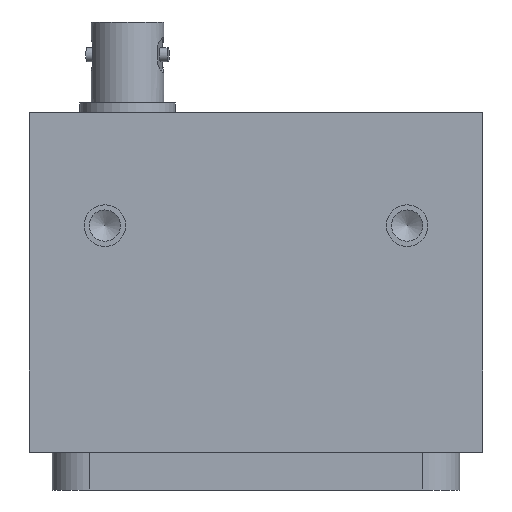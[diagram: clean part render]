
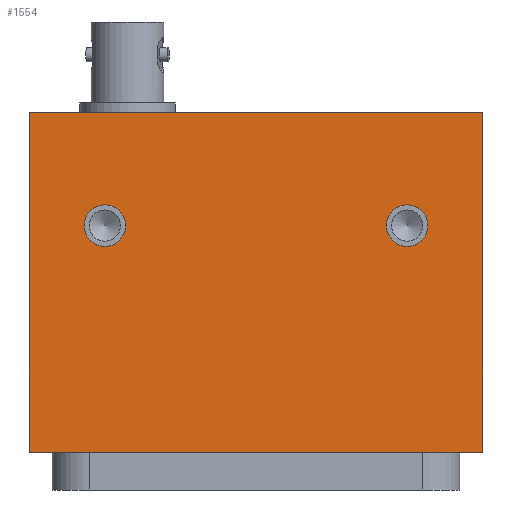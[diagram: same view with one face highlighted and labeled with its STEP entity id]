
A CAD part, front view. The second image highlights one B-rep face of the part: STEP entity #1554.
In plain terms, the highlighted planar face has unit normal (0, -1, 0).
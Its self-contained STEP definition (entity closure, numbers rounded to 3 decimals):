
#122=FACE_BOUND('',#407,.T.);
#123=FACE_BOUND('',#408,.T.);
#178=CIRCLE('',#1672,2.75);
#179=CIRCLE('',#1674,2.75);
#295=FACE_OUTER_BOUND('',#406,.T.);
#406=EDGE_LOOP('',(#1158,#1159,#1160,#1161));
#407=EDGE_LOOP('',(#1162));
#408=EDGE_LOOP('',(#1163));
#561=LINE('',#2400,#657);
#568=LINE('',#2420,#664);
#569=LINE('',#2422,#665);
#570=LINE('',#2423,#666);
#657=VECTOR('',#1919,45.);
#664=VECTOR('',#1940,60.);
#665=VECTOR('',#1941,45.);
#666=VECTOR('',#1942,60.);
#755=VERTEX_POINT('',#2397);
#756=VERTEX_POINT('',#2399);
#758=VERTEX_POINT('',#2405);
#759=VERTEX_POINT('',#2408);
#762=VERTEX_POINT('',#2419);
#763=VERTEX_POINT('',#2421);
#917=EDGE_CURVE('',#756,#755,#561,.T.);
#920=EDGE_CURVE('',#758,#758,#178,.T.);
#921=EDGE_CURVE('',#759,#759,#179,.T.);
#926=EDGE_CURVE('',#755,#762,#568,.T.);
#927=EDGE_CURVE('',#763,#762,#569,.T.);
#928=EDGE_CURVE('',#763,#756,#570,.T.);
#1158=ORIENTED_EDGE('',*,*,#926,.T.);
#1159=ORIENTED_EDGE('',*,*,#927,.F.);
#1160=ORIENTED_EDGE('',*,*,#928,.T.);
#1161=ORIENTED_EDGE('',*,*,#917,.T.);
#1162=ORIENTED_EDGE('',*,*,#920,.T.);
#1163=ORIENTED_EDGE('',*,*,#921,.T.);
#1496=PLANE('',#1677);
#1554=ADVANCED_FACE('',(#295,#122,#123),#1496,.T.);
#1672=AXIS2_PLACEMENT_3D('',#2406,#1924,#1925);
#1674=AXIS2_PLACEMENT_3D('',#2409,#1928,#1929);
#1677=AXIS2_PLACEMENT_3D('',#2418,#1938,#1939);
#1919=DIRECTION('',(0.,0.,-1.));
#1924=DIRECTION('center_axis',(0.,1.,0.));
#1925=DIRECTION('ref_axis',(1.,0.,0.));
#1928=DIRECTION('center_axis',(0.,1.,0.));
#1929=DIRECTION('ref_axis',(1.,0.,0.));
#1938=DIRECTION('center_axis',(0.,-1.,0.));
#1939=DIRECTION('ref_axis',(0.,0.,-1.));
#1940=DIRECTION('',(1.,0.,0.));
#1941=DIRECTION('',(0.,0.,-1.));
#1942=DIRECTION('',(-1.,0.,0.));
#2397=CARTESIAN_POINT('',(-30.,-20.,-45.));
#2399=CARTESIAN_POINT('',(-30.,-20.,0.));
#2400=CARTESIAN_POINT('',(-30.,-20.,0.));
#2405=CARTESIAN_POINT('',(22.75,-20.,-15.));
#2406=CARTESIAN_POINT('Origin',(20.,-20.,-15.));
#2408=CARTESIAN_POINT('',(-17.25,-20.,-15.));
#2409=CARTESIAN_POINT('Origin',(-20.,-20.,-15.));
#2418=CARTESIAN_POINT('Origin',(-30.,-20.,0.));
#2419=CARTESIAN_POINT('',(30.,-20.,-45.));
#2420=CARTESIAN_POINT('',(30.,-20.,-45.));
#2421=CARTESIAN_POINT('',(30.,-20.,0.));
#2422=CARTESIAN_POINT('',(30.,-20.,0.));
#2423=CARTESIAN_POINT('',(30.,-20.,0.));
